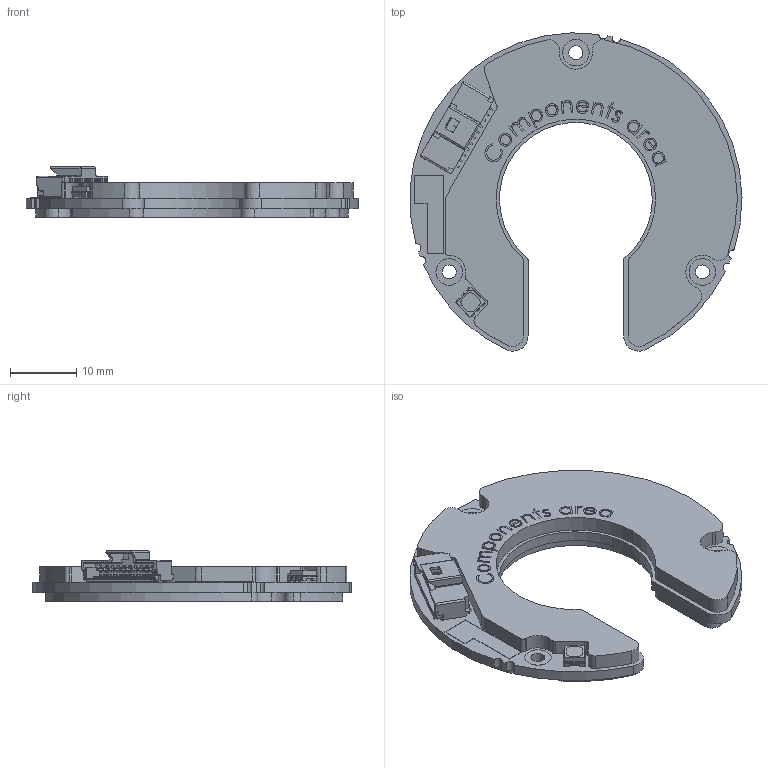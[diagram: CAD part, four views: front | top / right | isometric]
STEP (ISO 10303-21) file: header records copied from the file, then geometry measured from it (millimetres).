
FILE_DESCRIPTION (( 'STEP AP214' ), '1' );
FILE_NAME ('BR20DCB14Y12DD10D02.STEP', '2025-05-20T10:57:19', ( '' ), ( '' ), 'SwSTEP 2.0', 'SolidWorks 2024', '' );
FILE_SCHEMA (( 'AUTOMOTIVE_DESIGN' ));
Length unit declared in the file: millimetre
Products named in the file (1): BR20DCB14Y12DD10D02
Bounding box: 49.96 x 47.9 x 7.55 mm (x, y, z)
Volume: 5754 mm3; surface area: 4460.2 mm2
Topology: 1 solids, 1 shells, 1800 faces, 4957 edges, 3198 vertices
Faces by surface type: plane 1269, bspline 249, cylinder 190, cone 92
Entity records: 68004 total; most frequent: CARTESIAN_POINT 23449, ORIENTED_EDGE 9912, DIRECTION 7827, EDGE_CURVE 4956, LINE 3787, VECTOR 3787, VERTEX_POINT 3198, AXIS2_PLACEMENT_3D 2020
